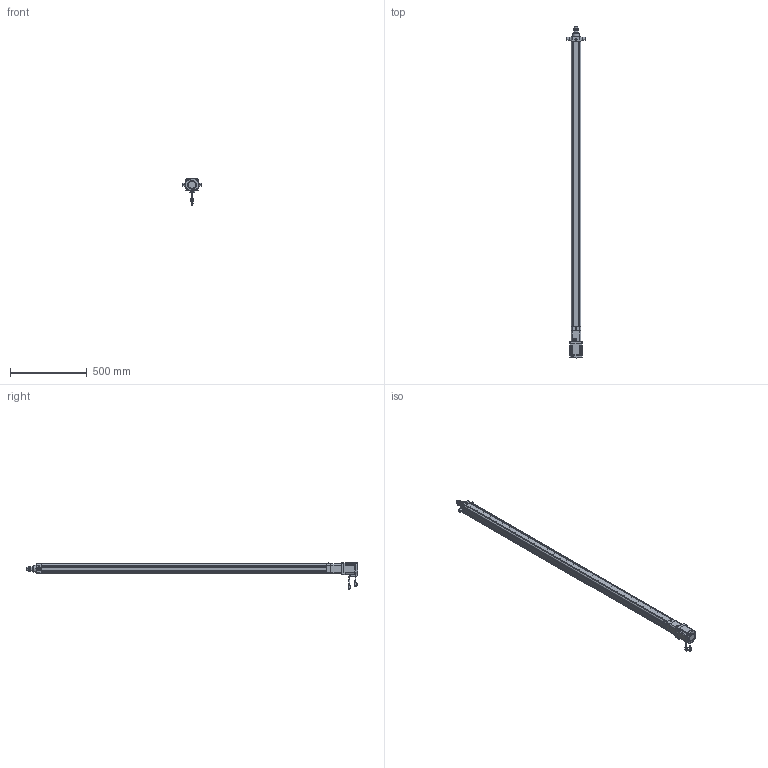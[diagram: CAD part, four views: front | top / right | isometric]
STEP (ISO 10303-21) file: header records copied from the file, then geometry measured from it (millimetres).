
FILE_DESCRIPTION((''),'2;1');
FILE_NAME('HE50-D-100-X1_ASM','2020-05-23T',('ASUS20200'),(''),'CREO PARAMETRIC BY PTC INC, 2014190','CREO PARAMETRIC BY PTC INC, 2014190','');
FILE_SCHEMA(('CONFIG_CONTROL_DESIGN'));
Length unit declared in the file: millimetre
Products named in the file (26): HE50-D-P-001-X1; HE50-D-P-002-X1; HE50-D-P-003-X1; HE50-D-009-X1; HE50-D-010-X1; 6301ZZ; LGLM-M8-22; SKT-16; SLM-01; YZ-M6X1; _MHMF082L1A2; _CABLE_MOTOR_BOTTOM_05; _CABLE_MOTOR_TOP_05; _MOTOR_CONNECTOR_2; _CABLE_BRAKE_BOTTOM_05; _CABLE_BRAKE_TOP_05; _MHMF_CONNECTOR_9_PIN_A6; MHMF082L1A2M2_1_ASM; M6X16; JX6X6X20; JDB303820; HE50-TC; HE50-D-P-005-X1; HE50-D-P-004-X1; HE50-D-P-008-X1; HE50-D-100-X1_ASM
Assembly tree (36 placements, depth 3):
  HE50-D-100-X1_ASM
    HE50-D-P-001-X1
    HE50-D-P-002-X1
    HE50-D-P-003-X1
    HE50-D-009-X1
    HE50-D-010-X1
    6301ZZ
    LGLM-M8-22  x8
    SKT-16
    SLM-01
    YZ-M6X1
    MHMF082L1A2M2_1_ASM
      _MHMF082L1A2
      _CABLE_MOTOR_BOTTOM_05
      _CABLE_MOTOR_TOP_05
      _MOTOR_CONNECTOR_2
      _CABLE_BRAKE_BOTTOM_05
      _CABLE_BRAKE_TOP_05
      _MHMF_CONNECTOR_9_PIN_A6
    M6X16  x4
    JX6X6X20
    JDB303820
    HE50-TC  x2
    HE50-D-P-005-X1
    HE50-D-P-004-X1
    HE50-D-P-008-X1
Bounding box: 124 x 2158.4 x 173.65 mm (x, y, z)
Volume: 4613461.9 mm3; surface area: 1449093.1 mm2
Topology: 35 solids, 65 shells, 2317 faces, 5665 edges, 3545 vertices
Faces by surface type: plane 978, cylinder 689, cone 501, torus 102, sphere 44, bspline 3
Entity records: 59639 total; most frequent: CARTESIAN_POINT 11302, DIRECTION 10659, ORIENTED_EDGE 9462, EDGE_CURVE 4787, AXIS2_PLACEMENT_3D 4016, VERTEX_POINT 3029, VECTOR 2627, LINE 2627
